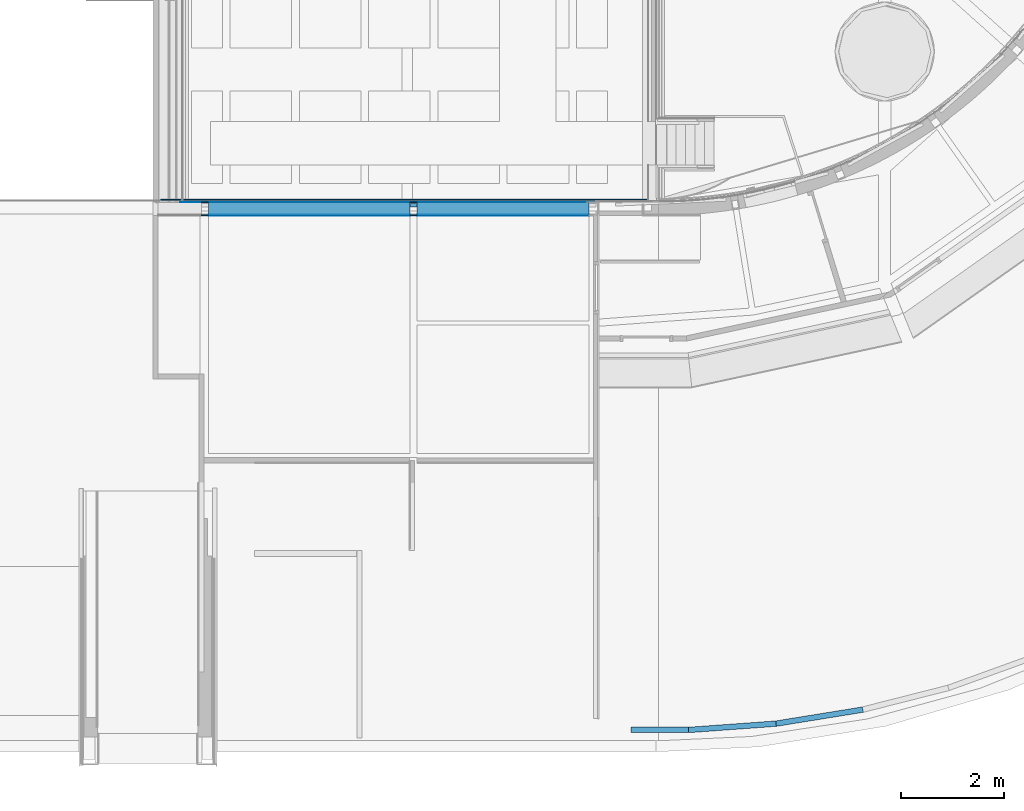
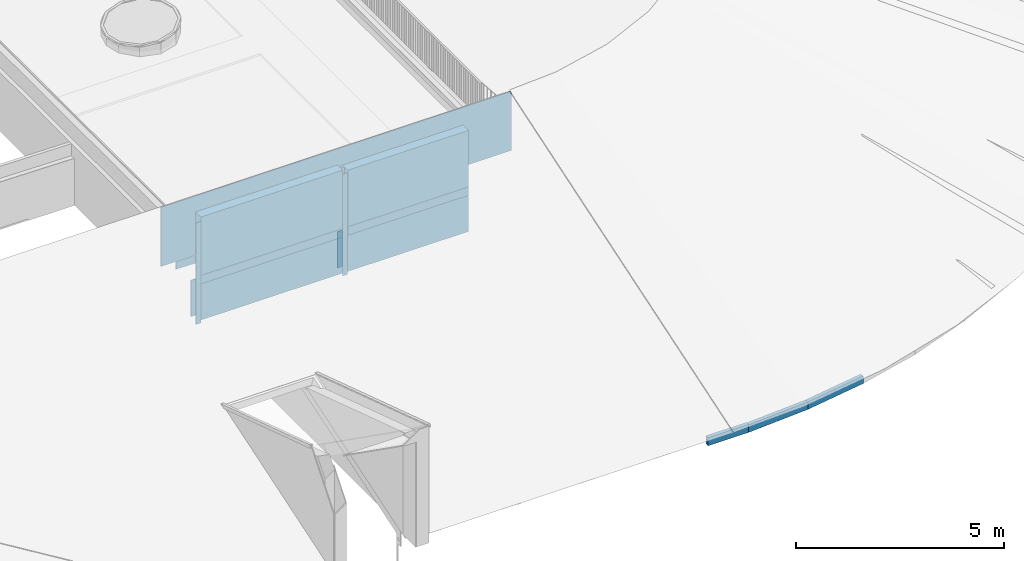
# One storey, part 26 of 66: 16 walls.
"""IFC2X3 building model written with IfcOpenShell, lengths in millimetres."""

import ifcopenshell
import ifcopenshell.guid

model = None  # the IFC model being written
_history = None  # IfcOwnerHistory: only IFC2X3 demands one
_inside = {}  # id of a spatial element -> (the spatial element, [elements in it])
_under = {}  # id of a project, library or spatial element -> (it, [spatial elements below it])
_declared = {}  # id of a project -> (the project, [libraries it declares])
_typed = {}  # id of a type object -> (the type object, [elements of that type])
_made_of = {}  # id of a material, layer set ... -> (it, [elements and type objects made of it])


def new_model(schema):
    """Start an empty IFC model of exactly this schema.

    Asked for "IFC4X3", IfcOpenShell would pick the latest addendum, in which some entities
    have other attributes; the version numbers below select the first issue.
    IFC2X3 requires an IfcOwnerHistory on every rooted entity: one is made here for all.
    """
    global model, _history
    if schema == "IFC4X3":
        model = ifcopenshell.file(schema_version=(4, 3, 0, 0))
    else:
        model = ifcopenshell.file(schema=schema)
    _inside.clear()
    _under.clear()
    _declared.clear()
    _typed.clear()
    _made_of.clear()
    _history = None
    if model.schema == "IFC2X3":
        org = make("IfcOrganization", Name="unknown")
        user = make(
            "IfcPersonAndOrganization",
            ThePerson=make("IfcPerson", FamilyName="unknown"),
            TheOrganization=org,
        )
        app = make(
            "IfcApplication",
            ApplicationDeveloper=org,
            Version="unknown",
            ApplicationFullName="unknown",
            ApplicationIdentifier="unknown",
        )
        _history = make(
            "IfcOwnerHistory",
            OwningUser=user,
            OwningApplication=app,
            ChangeAction="ADDED",
            CreationDate=0,
        )
    return model


def make(cls, **values):
    """One entity of the class cls with the attributes given. An attribute that is None is left unset."""
    return model.create_entity(
        cls, **{name: value for name, value in values.items() if value is not None}
    )


def entity(cls, *values):
    """Any entity or typed value of the class cls, its attributes in the order of the schema. None: left unset."""
    e = model.create_entity(cls)
    for i, value in enumerate(values):
        if value is not None:
            e[i] = value
    return e


def rooted(cls, **values):
    """An entity with a GlobalId (a new one), such as an element, a storey or a relation."""
    return make(cls, GlobalId=ifcopenshell.guid.new(), OwnerHistory=_history, **values)


def si_unit(unit_type, name, prefix=None):
    """IfcSIUnit, for example si_unit("LENGTHUNIT", "METRE", prefix="MILLI")."""
    return make("IfcSIUnit", UnitType=unit_type, Prefix=prefix, Name=name)


def converted_unit(unit_type, name, factor, base, dimensions=None, offset=None):
    """IfcConversionBasedUnit, such as the inch: factor (a typed value) times the base unit."""
    return make(
        "IfcConversionBasedUnit"
        if offset is None
        else "IfcConversionBasedUnitWithOffset",
        ConversionOffset=offset,
        Dimensions=None
        if dimensions is None
        else entity("IfcDimensionalExponents", *dimensions),
        UnitType=unit_type,
        Name=name,
        ConversionFactor=make(
            "IfcMeasureWithUnit", ValueComponent=factor, UnitComponent=base
        ),
    )


def derived_unit(unit_type, elements):
    """IfcDerivedUnit: a product of units, each with its exponent."""
    return make(
        "IfcDerivedUnit",
        Elements=[
            make("IfcDerivedUnitElement", Unit=unit, Exponent=power)
            for unit, power in elements
        ],
        UnitType=unit_type,
    )


def assignment(units):
    """IfcUnitAssignment: the units of a project."""
    return None if units is None else make("IfcUnitAssignment", Units=units)


def point(xyz):
    """IfcCartesianPoint."""
    return None if xyz is None else make("IfcCartesianPoint", Coordinates=xyz)


def direction(xyz):
    """IfcDirection."""
    return None if xyz is None else make("IfcDirection", DirectionRatios=xyz)


def frame(location, z_axis=None, x_axis=None):
    """IfcAxis2Placement3D, a coordinate frame: its origin and axes. An axis left out is left unset."""
    return make(
        "IfcAxis2Placement3D",
        Location=point(location),
        Axis=direction(z_axis),
        RefDirection=direction(x_axis),
    )


def frame_2d(location, x_axis=None):
    """IfcAxis2Placement2D, a coordinate frame in the plane: its origin and x axis."""
    return make(
        "IfcAxis2Placement2D", Location=point(location), RefDirection=direction(x_axis)
    )


def origin():
    """The frame at (0, 0, 0) with its axes left unset."""
    return frame((0.0, 0.0, 0.0))


def place(relative_to, where):
    """IfcLocalPlacement: puts the frame where relative to a parent placement (None: the world)."""
    return make(
        "IfcLocalPlacement", PlacementRelTo=relative_to, RelativePlacement=where
    )


def context(
    kind, dimensions, precision=None, world=None, true_north=None, identifier=None
):
    """IfcGeometricRepresentationContext, for example the 3D "Model" context."""
    return make(
        "IfcGeometricRepresentationContext",
        ContextIdentifier=identifier,
        ContextType=kind,
        CoordinateSpaceDimension=dimensions,
        Precision=precision,
        WorldCoordinateSystem=world,
        TrueNorth=true_north,
    )


def subcontext(parent, identifier, kind, view, scale=None):
    """IfcGeometricRepresentationSubContext, for example "Body" below "Model"."""
    return make(
        "IfcGeometricRepresentationSubContext",
        ContextIdentifier=identifier,
        ContextType=kind,
        ParentContext=parent,
        TargetScale=scale,
        TargetView=view,
    )


def project(units=None, contexts=None):
    """IfcProject with its units and contexts."""
    return rooted(
        "IfcProject",
        Name="project",
        RepresentationContexts=contexts,
        UnitsInContext=assignment(units),
    )


def spatial(cls, under=None, at=None, **own):
    """A site, building, storey or space (cls), placed at a placement, below another one or the project."""
    s = rooted(cls, ObjectPlacement=at, **own)
    if under is not None:
        _under.setdefault(under.id(), (under, []))[1].append(s)
    return s


def polyline(points):
    """IfcPolyline through the points."""
    return make("IfcPolyline", Points=[point(p) for p in points])


def profile(cls, at=None, kind="AREA", **sizes):
    """A parametric profile (cls). Its sizes go by their IFC names, for example OverallWidth=200.0."""
    return make(cls, ProfileType=kind, Position=at, **sizes)


def rectangle(**sizes):
    """IfcRectangleProfileDef."""
    return profile("IfcRectangleProfileDef", **sizes)


def outline(outer, holes=None, kind="AREA"):
    """IfcArbitraryClosedProfileDef: a profile drawn as a closed curve; with holes, ...WithVoids."""
    if holes is None:
        return make("IfcArbitraryClosedProfileDef", ProfileType=kind, OuterCurve=outer)
    return make(
        "IfcArbitraryProfileDefWithVoids",
        ProfileType=kind,
        OuterCurve=outer,
        InnerCurves=holes,
    )


def extrude(swept, where, along, depth):
    """IfcExtrudedAreaSolid: the profile swept, set in the frame where, extruded along a direction by depth."""
    return make(
        "IfcExtrudedAreaSolid",
        SweptArea=swept,
        Position=where,
        ExtrudedDirection=direction(along),
        Depth=depth,
    )


def clip(a, b, op="DIFFERENCE"):
    """IfcBooleanClippingResult: the solid a cut by the half space b."""
    return make(
        "IfcBooleanClippingResult", Operator=op, FirstOperand=a, SecondOperand=b
    )


def halfspace(plane, agree):
    """IfcHalfSpaceSolid: all space on one side of the plane z = 0 of the frame plane."""
    return make(
        "IfcHalfSpaceSolid",
        BaseSurface=make("IfcPlane", Position=plane),
        AgreementFlag=agree,
    )


def shape(context_of_items, identifier, shape_type, items):
    """IfcShapeRepresentation: the items that make up one representation, for example the "Body"."""
    return make(
        "IfcShapeRepresentation",
        ContextOfItems=context_of_items,
        RepresentationIdentifier=identifier,
        RepresentationType=shape_type,
        Items=items,
    )


def material(Name=None, Category=None):
    """IfcMaterial."""
    return make("IfcMaterial", Name=Name, Category=Category)


def layer(
    of_material, thickness, ventilated=None, Name=None, Category=None, Priority=None
):
    """IfcMaterialLayer: one layer of a wall or slab, of a material (None: an air gap)."""
    return make(
        "IfcMaterialLayer",
        Material=of_material,
        LayerThickness=thickness,
        IsVentilated=ventilated,
        Name=Name,
        Category=Category,
        Priority=Priority,
    )


def layer_set(layers, Name=None):
    """IfcMaterialLayerSet."""
    return make("IfcMaterialLayerSet", MaterialLayers=layers, LayerSetName=Name)


def layer_usage(for_layer_set, set_direction, sense, offset, extent=None):
    """IfcMaterialLayerSetUsage: how a layer set lies in its element."""
    return make(
        "IfcMaterialLayerSetUsage",
        ForLayerSet=for_layer_set,
        LayerSetDirection=set_direction,
        DirectionSense=sense,
        OffsetFromReferenceLine=offset,
        ReferenceExtent=extent,
    )


def made_of(thing, what):
    """Note that an element or type object is made of a material, layer set ...; save() writes the relation."""
    if what is not None:
        _made_of.setdefault(what.id(), (what, []))[1].append(thing)
    return thing


def type_object(cls, material=None, **own):
    """A type object (cls), such as IfcWallType, which elements share."""
    return made_of(rooted(cls, **own), material)


def element(
    cls,
    number,
    at=None,
    inside=None,
    cuts=None,
    type_object=None,
    material=None,
    context=None,
    identifier="Body",
    shape_type=None,
    held_by="IfcProductDefinitionShape",
    body=None,
    shapes=None,
    **own,
):
    """One element of the class cls, such as IfcWall. Its Tag is "e" and its number.

    at: its placement. inside: the storey or other place that contains it. cuts: it is an
    opening in that element (IfcRelVoidsElement). A single representation is given by context,
    identifier, shape_type and body (its items); several are given by shapes. held_by: the class
    of the entity that holds the representations. save() writes the other relations.
    """
    e = rooted(cls, Tag="e%d" % number, ObjectPlacement=at, **own)
    if body is not None:
        shapes = [shape(context, identifier, shape_type, body)]
    if shapes is not None:
        e.Representation = make(held_by, Representations=shapes)
    if inside is not None:
        _inside.setdefault(inside.id(), (inside, []))[1].append(e)
    if cuts is not None:
        rooted(
            "IfcRelVoidsElement", RelatingBuildingElement=cuts, RelatedOpeningElement=e
        )
    if type_object is not None:
        _typed.setdefault(type_object.id(), (type_object, []))[1].append(e)
    return made_of(e, material)


def aggregate(whole, parts):
    """IfcRelAggregates: a whole, such as a stair, and the parts it consists of."""
    return rooted("IfcRelAggregates", RelatingObject=whole, RelatedObjects=parts)


def save(model, path):
    """Write the relations noted so far, then the file.

    IfcRelAggregates (storeys below a building ...), IfcRelContainedInSpatialStructure (elements
    in a storey), IfcRelDefinesByType, IfcRelAssociatesMaterial and IfcRelDeclares: one each for
    every whole, place, type object, material and project.
    """
    for whole, parts in _under.values():
        aggregate(whole, parts)
    for where, things in _inside.values():
        rooted(
            "IfcRelContainedInSpatialStructure",
            RelatedElements=things,
            RelatingStructure=where,
        )
    for kind, things in _typed.values():
        rooted("IfcRelDefinesByType", RelatedObjects=things, RelatingType=kind)
    for what, things in _made_of.values():
        rooted("IfcRelAssociatesMaterial", RelatedObjects=things, RelatingMaterial=what)
    for by, libraries in _declared.values():
        rooted("IfcRelDeclares", RelatingContext=by, RelatedDefinitions=libraries)
    model.write(path)


model = new_model("IFC2X3")

# Units and contexts
model_context = context("Model", 3, precision=0.01, world=origin(), true_north=direction((6.12303176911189e-17, 1.0)))
body_context = subcontext(model_context, "Body", "Model", "MODEL_VIEW")
ifc_project = project(units=[si_unit("LENGTHUNIT", "METRE", prefix="MILLI"), si_unit("AREAUNIT", "SQUARE_METRE"), si_unit("VOLUMEUNIT", "CUBIC_METRE"), converted_unit("PLANEANGLEUNIT", "DEGREE", entity("IfcRatioMeasure", 0.0174532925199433), si_unit("PLANEANGLEUNIT", "RADIAN"), dimensions=[0, 0, 0, 0, 0, 0, 0]), si_unit("MASSUNIT", "GRAM", prefix="KILO"), derived_unit("MASSDENSITYUNIT", [(si_unit("MASSUNIT", "GRAM", prefix="KILO"), 1), (si_unit("LENGTHUNIT", "METRE"), -3)]), derived_unit("MOMENTOFINERTIAUNIT", [(si_unit("LENGTHUNIT", "METRE"), 4)]), si_unit("TIMEUNIT", "SECOND"), si_unit("FREQUENCYUNIT", "HERTZ"), si_unit("THERMODYNAMICTEMPERATUREUNIT", "DEGREE_CELSIUS"), derived_unit("THERMALTRANSMITTANCEUNIT", [(si_unit("MASSUNIT", "GRAM", prefix="KILO"), 1), (si_unit("THERMODYNAMICTEMPERATUREUNIT", "KELVIN"), -1), (si_unit("TIMEUNIT", "SECOND"), -3)]), derived_unit("VOLUMETRICFLOWRATEUNIT", [(si_unit("LENGTHUNIT", "METRE"), 3), (si_unit("TIMEUNIT", "SECOND"), -1)]), si_unit("ELECTRICCURRENTUNIT", "AMPERE"), si_unit("ELECTRICVOLTAGEUNIT", "VOLT"), si_unit("POWERUNIT", "WATT"), si_unit("FORCEUNIT", "NEWTON", prefix="KILO"), si_unit("ILLUMINANCEUNIT", "LUX"), si_unit("LUMINOUSFLUXUNIT", "LUMEN"), si_unit("LUMINOUSINTENSITYUNIT", "CANDELA"), derived_unit("USERDEFINED", [(si_unit("MASSUNIT", "GRAM", prefix="KILO"), -1), (si_unit("LENGTHUNIT", "METRE"), -2), (si_unit("TIMEUNIT", "SECOND"), 3), (si_unit("LUMINOUSFLUXUNIT", "LUMEN"), 1)]), derived_unit("LINEARVELOCITYUNIT", [(si_unit("LENGTHUNIT", "METRE"), 1), (si_unit("TIMEUNIT", "SECOND"), -1)]), si_unit("PRESSUREUNIT", "PASCAL"), derived_unit("USERDEFINED", [(si_unit("LENGTHUNIT", "METRE"), -2), (si_unit("MASSUNIT", "GRAM", prefix="KILO"), 1), (si_unit("TIMEUNIT", "SECOND"), -2)]), derived_unit("LINEARFORCEUNIT", [(si_unit("MASSUNIT", "GRAM", prefix="KILO"), 1), (si_unit("LENGTHUNIT", "METRE"), 1), (si_unit("TIMEUNIT", "SECOND"), -2), (si_unit("LENGTHUNIT", "METRE"), -1)]), derived_unit("PLANARFORCEUNIT", [(si_unit("MASSUNIT", "GRAM", prefix="KILO"), 1), (si_unit("LENGTHUNIT", "METRE"), 1), (si_unit("TIMEUNIT", "SECOND"), -2), (si_unit("LENGTHUNIT", "METRE"), -2)])], contexts=[model_context])

# Site, building, storey
site_placement = place(None, origin())
site = spatial("IfcSite", under=ifc_project, at=site_placement, Name="Default", CompositionType="ELEMENT")
building_placement = place(site_placement, origin())
building = spatial("IfcBuilding", under=site, at=building_placement, Name="-", CompositionType="ELEMENT")
storey_placement = place(building_placement, frame((0.0, 0.0, 3070.0)))
storey = spatial("IfcBuildingStorey", under=building, at=storey_placement, Name="01 eerste verdieping", CompositionType="ELEMENT", Elevation=3070.00000000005)

# Walls
ifc_material_1 = material(Name="NLRS_i4_hout_multiplex")
ifc_layer_1 = layer(ifc_material_1, 9.0)
ifc_material_2 = material(Name="NLRS_m1_isolatie")
ifc_layer_2 = layer(ifc_material_2, 89.0)
ifc_layer_3 = layer(ifc_material_1, 9.0)
ifc_layer_set_1 = layer_set([ifc_layer_1, ifc_layer_2, ifc_layer_3], Name="Basic Wall:NLRS_21_WA_HSB-wand_110mm")
ifc_layer_usage_1 = layer_usage(ifc_layer_set_1, "AXIS2", "NEGATIVE", 53.5)
wall_type_1 = type_object("IfcWallType", Name="Basic Wall:NLRS_21_WA_HSB-wand_110mm", PredefinedType="STANDARD", material=ifc_layer_set_1)
wall_1_placement = place(storey_placement, frame((54630.5044890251, 519.503684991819, -370.0), z_axis=(0.0, 0.0, 1.0), x_axis=(-0.987171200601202, -0.159665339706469, 0.0)))
element("IfcWallStandardCase", 1, at=wall_1_placement, inside=storey, type_object=wall_type_1, material=ifc_layer_usage_1, Name="Basic Wall:NLRS_21_WA_HSB-wand_110mm", ObjectType="Basic Wall:NLRS_21_WA_HSB-wand_110mm", context=body_context, shape_type="SweptSolid", body=[
    extrude(outline(polyline([(1713.66063869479, -53.5000000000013), (1718.38902617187, 53.4999999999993), (0.0, 53.4999999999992), (4.72838747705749, -53.5000000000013), (1713.66063869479, -53.5000000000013)])), origin(), (0.0, 0.0, 1.0), 220.000000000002),
])
ifc_layer_usage_2 = layer_usage(ifc_layer_set_1, "AXIS2", "NEGATIVE", 53.5)
wall_2_placement = place(storey_placement, frame((52938.8522585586, 245.684138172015, -370.0), z_axis=(0.0, 0.0, 1.0), x_axis=(-0.99740710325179, -0.0719657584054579, 0.0)))
element("IfcWallStandardCase", 2, at=wall_2_placement, inside=storey, type_object=wall_type_1, material=ifc_layer_usage_2, Name="Basic Wall:NLRS_21_WA_HSB-wand_110mm", ObjectType="Basic Wall:NLRS_21_WA_HSB-wand_110mm", context=body_context, shape_type="SweptSolid", body=[
    extrude(outline(polyline([(1710.60216957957, -53.4999999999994), (1714.45733567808, 53.5000000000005), (0.0, 53.5000000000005), (4.72838747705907, -53.4999999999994), (1710.60216957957, -53.4999999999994)])), origin(), (0.0, 0.0, 1.0), 220.000000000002),
])
ifc_layer_usage_3 = layer_usage(ifc_layer_set_1, "AXIS2", "NEGATIVE", 53.5)
wall_3_placement = place(storey_placement, frame((51232.6905018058, 122.440635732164, -370.0), z_axis=(0.0, 0.0, 1.0), x_axis=(-1.0, 0.0, 0.0)))
element("IfcWallStandardCase", 3, at=wall_3_placement, inside=storey, type_object=wall_type_1, material=ifc_layer_usage_3, Name="Basic Wall:NLRS_21_WA_HSB-wand_110mm", ObjectType="Basic Wall:NLRS_21_WA_HSB-wand_110mm", context=body_context, shape_type="SweptSolid", body=[
    extrude(outline(polyline([(1123.40454880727, -53.5), (1123.40454880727, 53.5), (0.0, 53.5), (3.85516609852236, -53.5), (1123.40454880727, -53.5)])), origin(), (0.0, 0.0, 1.0), 234.299999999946),
])
ifc_material_3 = material(Name="AL Houten gevelbekleding staand")
ifc_layer_4 = layer(ifc_material_3, 20.0)
ifc_layer_set_2 = layer_set([ifc_layer_4], Name="Basic Wall:NLRS_42_WA_Houten gevelbekleding staand 20mm")
ifc_layer_usage_4 = layer_usage(ifc_layer_set_2, "AXIS2", "NEGATIVE", 10.0)
wall_type_2 = type_object("IfcWallType", Name="Basic Wall:NLRS_42_WA_Houten gevelbekleding staand 20mm", PredefinedType="STANDARD", material=ifc_layer_set_2)
wall_4_placement = place(storey_placement, frame((40943.066810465, 10456.124095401, 1797.0)))
element("IfcWallStandardCase", 4, at=wall_4_placement, inside=storey, type_object=wall_type_2, material=ifc_layer_usage_4, Name="Basic Wall:NLRS_42_WA_Houten gevelbekleding staand 20mm", ObjectType="Basic Wall:NLRS_42_WA_Houten gevelbekleding staand 20mm", context=body_context, shape_type="SweptSolid", body=[
    extrude(rectangle(XDim=9702.77272321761, YDim=19.9999999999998, at=frame_2d((4851.3863616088, 1.4033219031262e-13), x_axis=(-1.0, 0.0))), origin(), (0.0, 0.0, 1.0), 1733.0),
])
ifc_layer_5 = layer(ifc_material_1, 10.0)
ifc_layer_6 = layer(ifc_material_2, 235.0)
ifc_layer_7 = layer(ifc_material_1, 10.0)
ifc_material_4 = material(Name="NLRS_f7_gipsplaat_gen")
ifc_layer_8 = layer(ifc_material_4, 12.5)
ifc_layer_set_3 = layer_set([ifc_layer_5, ifc_layer_6, ifc_layer_7, ifc_layer_8], Name="Basic Wall:NLRS_21_WA_HSB-wand_268mm")
ifc_layer_usage_5 = layer_usage(ifc_layer_set_3, "AXIS2", "POSITIVE", -133.75)
wall_type_3 = type_object("IfcWallType", Name="Basic Wall:NLRS_21_WA_HSB-wand_268mm", PredefinedType="STANDARD", material=ifc_layer_set_3)
wall_5_placement = place(storey_placement, frame((41876.6039213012, 10280.874095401, 82.0)))
element("IfcWallStandardCase", 5, at=wall_5_placement, inside=storey, type_object=wall_type_3, material=ifc_layer_usage_5, Name="Basic Wall:NLRS_21_WA_HSB-wand_268mm", ObjectType="Basic Wall:NLRS_21_WA_HSB-wand_268mm", context=body_context, shape_type="SweptSolid", body=[
    extrude(rectangle(XDim=3926.68948673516, YDim=267.5, at=frame_2d((1963.34474336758, -1.84741111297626e-13), x_axis=(-1.0, 0.0))), origin(), (0.0, 0.0, 1.0), 1060.0),
])
ifc_layer_usage_6 = layer_usage(ifc_layer_set_3, "AXIS2", "POSITIVE", -133.75)
wall_6_placement = place(storey_placement, frame((45943.2934080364, 10280.8740954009, 82.0)))
element("IfcWallStandardCase", 6, at=wall_6_placement, inside=storey, type_object=wall_type_3, material=ifc_layer_usage_6, Name="Basic Wall:NLRS_21_WA_HSB-wand_268mm", ObjectType="Basic Wall:NLRS_21_WA_HSB-wand_268mm", context=body_context, shape_type="SweptSolid", body=[
    extrude(rectangle(XDim=3347.64498639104, YDim=267.5, at=frame_2d((1673.82249319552, -2.8421709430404e-14), x_axis=(-1.0, 0.0))), origin(), (0.0, 0.0, 1.0), 1060.0),
])
ifc_layer_9 = layer(ifc_material_1, 18.0)
ifc_layer_set_4 = layer_set([ifc_layer_9], Name="Basic Wall:NLRS_41_WA_plaatmateriaal 18mm_gen_aly")
ifc_layer_usage_7 = layer_usage(ifc_layer_set_4, "AXIS2", "POSITIVE", -9.0)
wall_type_4 = type_object("IfcWallType", Name="Basic Wall:NLRS_41_WA_plaatmateriaal 18mm_gen_aly", PredefinedType="STANDARD", material=ifc_layer_set_4)
wall_7_placement = place(storey_placement, frame((41736.6039213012, 10156.124095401, 0.0)))
element("IfcWallStandardCase", 7, at=wall_7_placement, inside=storey, type_object=wall_type_4, material=ifc_layer_usage_7, Name="Basic Wall:NLRS_41_WA_plaatmateriaal 18mm_gen_aly", ObjectType="Basic Wall:NLRS_41_WA_plaatmateriaal 18mm_gen_aly", context=body_context, shape_type="SweptSolid", body=[
    extrude(rectangle(XDim=140.000000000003, YDim=18.0000000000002, at=frame_2d((70.0000000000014, 1.55431223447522e-13), x_axis=(-1.0, 0.0))), origin(), (0.0, 0.0, 1.0), 2970.0),
])
ifc_layer_usage_8 = layer_usage(ifc_layer_set_4, "AXIS2", "POSITIVE", -9.0)
wall_8_placement = place(storey_placement, frame((45803.2934080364, 10156.1240954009, 0.0)))
element("IfcWallStandardCase", 8, at=wall_8_placement, inside=storey, type_object=wall_type_4, material=ifc_layer_usage_8, Name="Basic Wall:NLRS_41_WA_plaatmateriaal 18mm_gen_aly", ObjectType="Basic Wall:NLRS_41_WA_plaatmateriaal 18mm_gen_aly", context=body_context, shape_type="SweptSolid", body=[
    extrude(rectangle(XDim=140.000000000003, YDim=18.0000000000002, at=frame_2d((70.0000000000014, 1.55431223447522e-13), x_axis=(-1.0, 0.0))), origin(), (0.0, 0.0, 1.0), 2970.0),
])
ifc_layer_usage_9 = layer_usage(ifc_layer_set_4, "AXIS2", "POSITIVE", -9.0)
wall_9_placement = place(storey_placement, frame((41877.2859170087, 10156.1240954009, 1142.0)))
element("IfcWallStandardCase", 9, at=wall_9_placement, inside=storey, type_object=wall_type_4, material=ifc_layer_usage_9, Name="Basic Wall:NLRS_41_WA_plaatmateriaal 18mm_gen_aly", ObjectType="Basic Wall:NLRS_41_WA_plaatmateriaal 18mm_gen_aly", context=body_context, shape_type="SweptSolid", body=[
    extrude(rectangle(XDim=3926.75354304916, YDim=18.0000000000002, at=frame_2d((1963.37677152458, 0.0), x_axis=(-1.0, 0.0))), origin(), (0.0, 0.0, 1.0), 248.000000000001),
])
ifc_layer_usage_10 = layer_usage(ifc_layer_set_4, "AXIS2", "POSITIVE", -9.0)
wall_10_placement = place(storey_placement, frame((45944.6573994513, 10156.1240954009, 1142.0)))
element("IfcWallStandardCase", 10, at=wall_10_placement, inside=storey, type_object=wall_type_4, material=ifc_layer_usage_10, Name="Basic Wall:NLRS_41_WA_plaatmateriaal 18mm_gen_aly", ObjectType="Basic Wall:NLRS_41_WA_plaatmateriaal 18mm_gen_aly", context=body_context, shape_type="SweptSolid", body=[
    extrude(rectangle(XDim=3346.96299068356, YDim=18.0000000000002, at=frame_2d((1673.48149534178, 0.0), x_axis=(-1.0, 0.0))), origin(), (0.0, 0.0, 1.0), 248.000000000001),
])
ifc_layer_10 = layer(ifc_material_1, 10.0)
ifc_layer_11 = layer(ifc_material_2, 235.0)
ifc_layer_12 = layer(ifc_material_1, 10.0)
ifc_layer_set_5 = layer_set([ifc_layer_10, ifc_layer_11, ifc_layer_12], Name="Basic Wall:NLRS_21_WA_HSB-wand_268mm (zonder gips)")
ifc_layer_usage_11 = layer_usage(ifc_layer_set_5, "AXIS2", "NEGATIVE", 127.5)
wall_type_5 = type_object("IfcWallType", Name="Basic Wall:NLRS_21_WA_HSB-wand_268mm (zonder gips)", PredefinedType="STANDARD", material=ifc_layer_set_5)
wall_11_placement = place(storey_placement, frame((41877.2859170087, 10274.624095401, 1390.0)))
element("IfcWallStandardCase", 11, at=wall_11_placement, inside=storey, type_object=wall_type_5, material=ifc_layer_usage_11, Name="Basic Wall:NLRS_21_WA_HSB-wand_268mm (zonder gips)", ObjectType="Basic Wall:NLRS_21_WA_HSB-wand_268mm (zonder gips)", context=body_context, shape_type="SweptSolid", body=[
    extrude(rectangle(XDim=3926.75354304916, YDim=254.999999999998, at=frame_2d((1963.37677152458, -2.41584530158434e-13), x_axis=(-1.0, 0.0))), origin(), (0.0, 0.0, 1.0), 1709.19999999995),
])
ifc_layer_usage_12 = layer_usage(ifc_layer_set_5, "AXIS2", "NEGATIVE", 127.5)
wall_12_placement = place(storey_placement, frame((45943.9754037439, 10274.624095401, 1390.0)))
element("IfcWallStandardCase", 12, at=wall_12_placement, inside=storey, type_object=wall_type_5, material=ifc_layer_usage_12, Name="Basic Wall:NLRS_21_WA_HSB-wand_268mm (zonder gips)", ObjectType="Basic Wall:NLRS_21_WA_HSB-wand_268mm (zonder gips)", context=body_context, shape_type="SweptSolid", body=[
    extrude(rectangle(XDim=3347.64498639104, YDim=254.999999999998, at=frame_2d((1673.82249319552, -7.8159700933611e-14), x_axis=(-1.0, 0.0))), origin(), (0.0, 0.0, 1.0), 1655.00000000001),
])
ifc_material_5 = material(Name="NLRS_n7_isolatie PIR_gen")
ifc_layer_13 = layer(ifc_material_5, 70.0)
ifc_layer_set_6 = layer_set([ifc_layer_13], Name="Basic Wall:NLRS_22_WA_LB_isolatie PIR 70mm")
ifc_layer_usage_13 = layer_usage(ifc_layer_set_6, "AXIS2", "NEGATIVE", 35.0)
wall_type_6 = type_object("IfcWallType", Name="Basic Wall:NLRS_22_WA_LB_isolatie PIR 70mm", PredefinedType="STANDARD", material=ifc_layer_set_6)
wall_13_placement = place(storey_placement, frame((45803.9754037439, 10347.532207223, 1390.0)))
element("IfcWallStandardCase", 13, at=wall_13_placement, inside=storey, type_object=wall_type_6, material=ifc_layer_usage_13, Name="Basic Wall:NLRS_22_WA_LB_isolatie PIR 70mm", ObjectType="Basic Wall:NLRS_22_WA_LB_isolatie PIR 70mm", context=body_context, shape_type="SweptSolid", body=[
    extrude(rectangle(XDim=140.000000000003, YDim=70.0000000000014, at=frame_2d((70.0000000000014, 2.59348098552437e-13), x_axis=(-1.0, 0.0))), origin(), (0.0, 0.0, 1.0), 1655.00000000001),
])
ifc_material_6 = material(Name="n2_bitumen_dak bedekking")
ifc_layer_14 = layer(ifc_material_6, 6.0)
ifc_layer_set_7 = layer_set([ifc_layer_14], Name="Basic Wall:47.11_2 laagse APP dakbedekking")
ifc_layer_usage_14 = layer_usage(ifc_layer_set_7, "AXIS2", "NEGATIVE", 3.0)
wall_type_7 = type_object("IfcWallType", Name="Basic Wall:47.11_2 laagse APP dakbedekking", PredefinedType="STANDARD", material=ifc_layer_set_7)
wall_14_placement = place(storey_placement, frame((49431.3144069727, 10405.1240954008, 1535.77258945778), z_axis=(0.0, 0.0, 1.0), x_axis=(-1.0, 0.0, 0.0)))
element("IfcWallStandardCase", 14, at=wall_14_placement, inside=storey, type_object=wall_type_7, material=ifc_layer_usage_14, Name="Basic Wall:47.11_2 laagse APP dakbedekking", ObjectType="Basic Wall:47.11_2 laagse APP dakbedekking", context=body_context, shape_type="Clipping", body=[
    clip(clip(extrude(rectangle(XDim=8101.7020883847, YDim=5.99999999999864, at=frame_2d((4050.85104419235, -4.46531700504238e-13), x_axis=(-1.0, 0.0))), origin(), (0.0, 0.0, 1.0), 286.227410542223), halfspace(frame((3566.8838495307, -3.0, 0.0), z_axis=(-0.0159979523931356, 0.0, -0.999872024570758), x_axis=(0.0, 1.0, 0.0)), False)), halfspace(frame((8101.7020883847, -3.0, 68.1094222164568), z_axis=(0.015710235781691, 0.0, -0.999876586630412), x_axis=(0.0, 1.0, 0.0)), False)),
])
ifc_layer_15 = layer(ifc_material_4, 12.5)
ifc_layer_16 = layer(ifc_material_1, 10.0)
ifc_layer_set_8 = layer_set([ifc_layer_15, ifc_layer_16], Name="Basic Wall:NLRS_41_WA_Bekleding kolommen")
ifc_layer_usage_15 = layer_usage(ifc_layer_set_8, "AXIS2", "NEGATIVE", 11.25)
wall_type_8 = type_object("IfcWallType", Name="Basic Wall:NLRS_41_WA_Bekleding kolommen", PredefinedType="STANDARD", material=ifc_layer_set_8)
wall_15_placement = place(storey_placement, frame((45803.2934080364, 10403.3740954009, 82.0)))
element("IfcWallStandardCase", 15, at=wall_15_placement, inside=storey, type_object=wall_type_8, material=ifc_layer_usage_15, Name="Basic Wall:NLRS_41_WA_Bekleding kolommen", ObjectType="Basic Wall:NLRS_41_WA_Bekleding kolommen", context=body_context, shape_type="SweptSolid", body=[
    extrude(rectangle(XDim=140.000000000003, YDim=22.4999999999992, at=frame_2d((70.0000000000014, 1.77635683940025e-15), x_axis=(-1.0, 0.0))), origin(), (0.0, 0.0, 1.0), 1060.0),
])
ifc_layer_usage_16 = layer_usage(ifc_layer_set_8, "AXIS2", "NEGATIVE", 11.25)
wall_16_placement = place(storey_placement, frame((41736.6039213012, 10403.3740954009, 82.0)))
element("IfcWallStandardCase", 16, at=wall_16_placement, inside=storey, type_object=wall_type_8, material=ifc_layer_usage_16, Name="Basic Wall:NLRS_41_WA_Bekleding kolommen", ObjectType="Basic Wall:NLRS_41_WA_Bekleding kolommen", context=body_context, shape_type="SweptSolid", body=[
    extrude(rectangle(XDim=140.000000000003, YDim=22.4999999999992, at=frame_2d((70.0000000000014, 1.77635683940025e-15), x_axis=(-1.0, 0.0))), origin(), (0.0, 0.0, 1.0), 1060.0),
])

save(model, "model.ifc")
